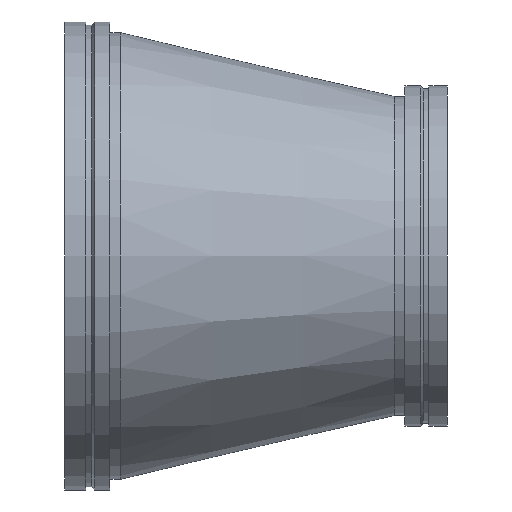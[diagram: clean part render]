
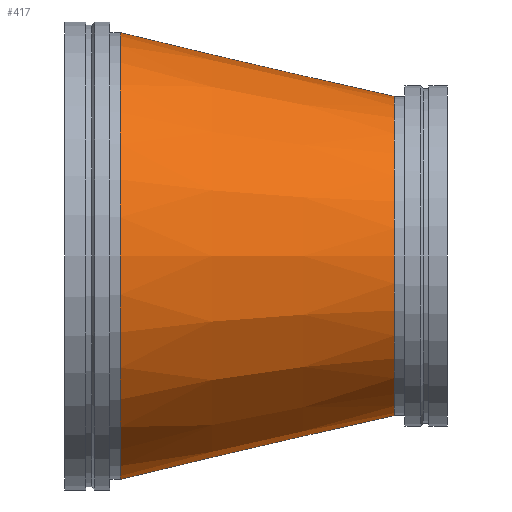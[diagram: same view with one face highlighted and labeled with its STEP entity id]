
A CAD part, front view. The second image highlights one B-rep face of the part: STEP entity #417.
In plain terms, the highlighted conical face has half-angle 13.116 degrees and reference radius 457.2 mm.
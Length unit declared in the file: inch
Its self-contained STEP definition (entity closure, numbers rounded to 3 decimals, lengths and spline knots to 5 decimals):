
#46=CONICAL_SURFACE('',#475,18.,0.229);
#54=LINE('',#739,#68);
#68=VECTOR('',#587,18.);
#101=FACE_OUTER_BOUND('',#124,.T.);
#124=EDGE_LOOP('',(#315,#316,#317,#318,#319,#320));
#155=CIRCLE('',#473,21.);
#156=CIRCLE('',#474,21.);
#157=CIRCLE('',#476,15.);
#158=CIRCLE('',#477,15.);
#195=VERTEX_POINT('',#729);
#196=VERTEX_POINT('',#730);
#197=VERTEX_POINT('',#735);
#198=VERTEX_POINT('',#736);
#239=EDGE_CURVE('',#195,#196,#155,.T.);
#240=EDGE_CURVE('',#196,#195,#156,.T.);
#242=EDGE_CURVE('',#197,#198,#157,.T.);
#243=EDGE_CURVE('',#198,#197,#158,.T.);
#244=EDGE_CURVE('',#198,#196,#54,.T.);
#315=ORIENTED_EDGE('',*,*,#242,.F.);
#316=ORIENTED_EDGE('',*,*,#243,.F.);
#317=ORIENTED_EDGE('',*,*,#244,.T.);
#318=ORIENTED_EDGE('',*,*,#240,.T.);
#319=ORIENTED_EDGE('',*,*,#239,.T.);
#320=ORIENTED_EDGE('',*,*,#244,.F.);
#417=ADVANCED_FACE('',(#101),#46,.T.);
#473=AXIS2_PLACEMENT_3D('',#731,#576,#577);
#474=AXIS2_PLACEMENT_3D('',#732,#578,#579);
#475=AXIS2_PLACEMENT_3D('',#734,#581,#582);
#476=AXIS2_PLACEMENT_3D('',#737,#583,#584);
#477=AXIS2_PLACEMENT_3D('',#738,#585,#586);
#576=DIRECTION('center_axis',(1.,0.,0.));
#577=DIRECTION('ref_axis',(0.,0.,-1.));
#578=DIRECTION('center_axis',(1.,0.,0.));
#579=DIRECTION('ref_axis',(0.,0.,-1.));
#581=DIRECTION('center_axis',(-1.,0.,0.));
#582=DIRECTION('ref_axis',(0.,1.,0.));
#583=DIRECTION('center_axis',(1.,0.,0.));
#584=DIRECTION('ref_axis',(0.,0.,-1.));
#585=DIRECTION('center_axis',(1.,0.,0.));
#586=DIRECTION('ref_axis',(0.,0.,-1.));
#587=DIRECTION('',(-0.974,-0.227,0.));
#729=CARTESIAN_POINT('',(5.25,21.,0.));
#730=CARTESIAN_POINT('',(5.25,-21.,0.));
#731=CARTESIAN_POINT('Origin',(5.25,0.,0.));
#732=CARTESIAN_POINT('Origin',(5.25,0.,0.));
#734=CARTESIAN_POINT('Origin',(18.125,0.,0.));
#735=CARTESIAN_POINT('',(31.,15.,0.));
#736=CARTESIAN_POINT('',(31.,-15.,0.));
#737=CARTESIAN_POINT('Origin',(31.,0.,0.));
#738=CARTESIAN_POINT('Origin',(31.,0.,0.));
#739=CARTESIAN_POINT('',(18.125,-18.,0.));
